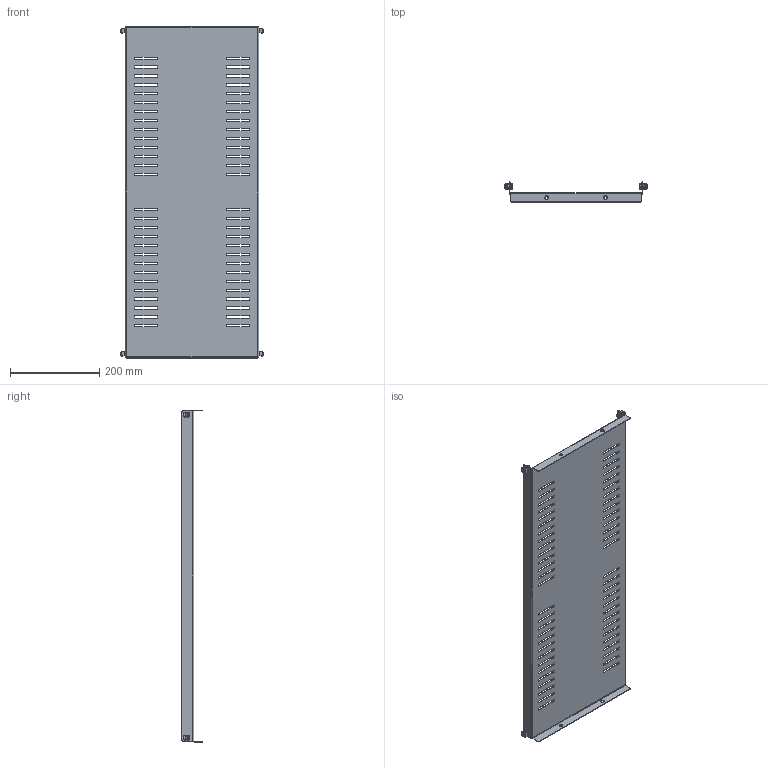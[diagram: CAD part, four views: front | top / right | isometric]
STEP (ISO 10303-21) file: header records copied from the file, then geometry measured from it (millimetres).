
FILE_DESCRIPTION (( 'STEP AP203' ), '1' );
FILE_NAME ('R5RF480.STEP', '2019-08-07T13:29:48', ( '' ), ( '' ), 'SwSTEP 2.0', 'SolidWorks 2017', '' );
FILE_SCHEMA (( 'CONFIG_CONTROL_DESIGN' ));
Length unit declared in the file: millimetre
Products named in the file (13): QB09C436; A3400008; A1100004; R5RF480
Assembly tree (9 placements, depth 2):
  QB09C436
  A3400008
  A1100004
  A3400008
  R5RF480
    QB09C436
    A1100004  x4
    A3400008  x4
Bounding box: 320 x 45 x 744 mm (x, y, z)
Volume: 387673.7 mm3; surface area: 529033.9 mm2
Topology: 9 solids, 9 shells, 946 faces, 2668 edges, 1740 vertices
Faces by surface type: plane 610, cylinder 248, cone 72, torus 16
Entity records: 16496 total; most frequent: CARTESIAN_POINT 2945, ORIENTED_EDGE 2624, DIRECTION 2390, EDGE_CURVE 1312, VECTOR 1056, LINE 1056, VERTEX_POINT 858, AXIS2_PLACEMENT_3D 667
